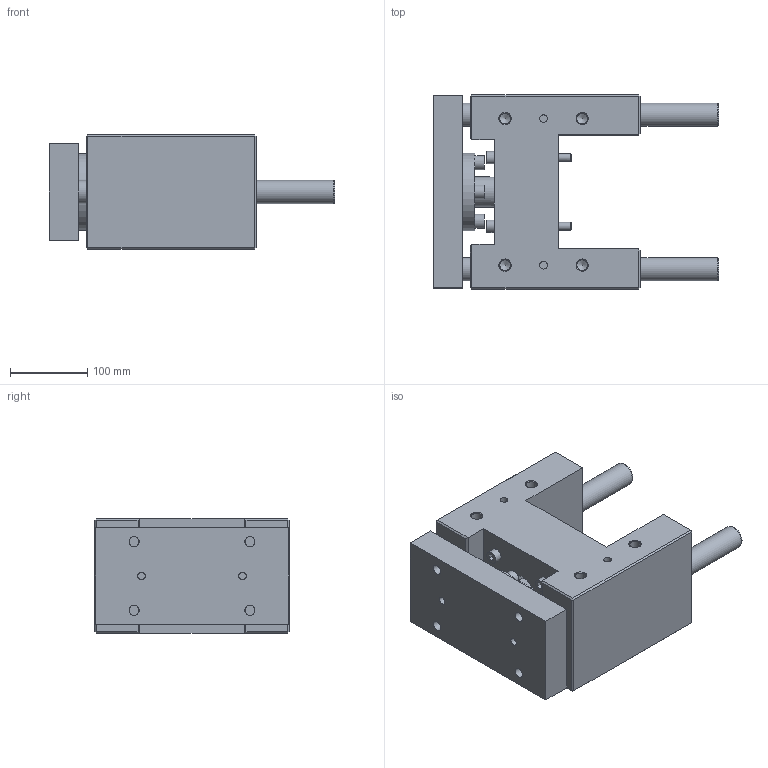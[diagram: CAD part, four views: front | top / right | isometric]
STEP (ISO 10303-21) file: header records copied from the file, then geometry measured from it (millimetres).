
FILE_DESCRIPTION( ( 'STEP AP214' ), '1' );
FILE_NAME( 'U:/Etudes/Top Solid/BIBLIO 3D AVM/TOP/PNEUMATIQUE/GUIDAGES/Type 32 (en H)/R_Renforcée/329R1230.step', '2005-05-27T09:24:06', ( ' ' ), ( ' ' ), 'XStep 1.0', ' ', ' ' );
FILE_SCHEMA( ( 'automotive_design' ) );
Length unit declared in the file: metre
Products named in the file (2): 1; 2
Bounding box: 370 x 252 x 148 mm (x, y, z)
Volume: 6446328.4 mm3; surface area: 523802.1 mm2
Topology: 2 solids, 7 shells, 239 faces, 527 edges, 341 vertices
Faces by surface type: plane 149, cylinder 69, cone 21
Full cylindrical faces by diameter (mm): 10 x12, 10.106 x4, 11 x4, 12 x8, 13 x8, 13.835 x8, 16 x4, 18 x4, 18.376 x2, 20 x4, 30 x4, 39 x1, 42 x1, 55 x1, 57 x1, 60 x1, 65 x1, 100 x1
Entity records: 7933 total; most frequent: CARTESIAN_POINT 1201, DIRECTION 1000, ORIENTED_EDGE 786, EDGE_CURVE 393, EDGE_LOOP 392, AXIS2_PLACEMENT_3D 374, FACE_OUTER_BOUND 308, VERTEX_POINT 303
